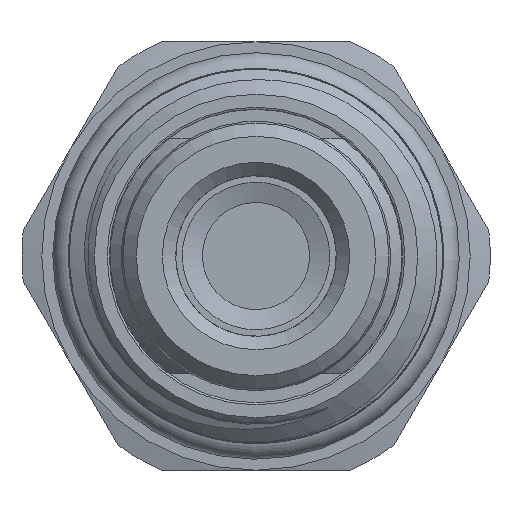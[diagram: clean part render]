
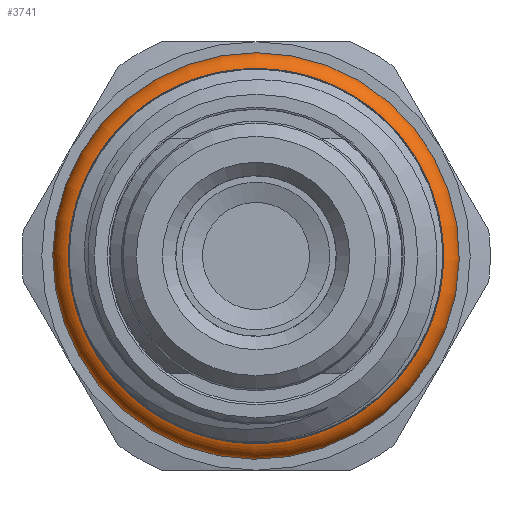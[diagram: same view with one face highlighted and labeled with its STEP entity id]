
A CAD part, left-side view. The second image highlights one B-rep face of the part: STEP entity #3741.
In plain terms, the highlighted toroidal (fillet/blend) face has major radius 10.82 mm and minor radius 1.232 mm.
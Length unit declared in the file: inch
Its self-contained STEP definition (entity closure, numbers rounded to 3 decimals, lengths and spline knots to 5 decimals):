
#47=TOROIDAL_SURFACE('',#4029,0.426,0.0485);
#481=FACE_OUTER_BOUND('',#682,.T.);
#682=EDGE_LOOP('',(#2963,#2964,#2965,#2966,#2967,#2968,#2969,#2970));
#843=CIRCLE('',#4009,0.38625);
#844=CIRCLE('',#4010,0.38625);
#853=CIRCLE('',#4027,0.38625);
#854=CIRCLE('',#4028,0.38625);
#855=CIRCLE('',#4030,0.0485);
#856=CIRCLE('',#4031,0.0485);
#1621=VERTEX_POINT('',#7643);
#1624=VERTEX_POINT('',#7651);
#1625=VERTEX_POINT('',#7653);
#1638=VERTEX_POINT('',#10046);
#1639=VERTEX_POINT('',#10047);
#2120=EDGE_CURVE('',#1624,#1625,#843,.T.);
#2121=EDGE_CURVE('',#1625,#1624,#844,.T.);
#2144=EDGE_CURVE('',#1638,#1639,#853,.T.);
#2146=EDGE_CURVE('',#1639,#1638,#854,.T.);
#2147=EDGE_CURVE('',#1638,#1621,#855,.T.);
#2148=EDGE_CURVE('',#1621,#1625,#856,.T.);
#2963=ORIENTED_EDGE('',*,*,#2144,.F.);
#2964=ORIENTED_EDGE('',*,*,#2147,.T.);
#2965=ORIENTED_EDGE('',*,*,#2148,.T.);
#2966=ORIENTED_EDGE('',*,*,#2120,.F.);
#2967=ORIENTED_EDGE('',*,*,#2121,.F.);
#2968=ORIENTED_EDGE('',*,*,#2148,.F.);
#2969=ORIENTED_EDGE('',*,*,#2147,.F.);
#2970=ORIENTED_EDGE('',*,*,#2146,.F.);
#3741=ADVANCED_FACE('',(#481),#47,.T.);
#4009=AXIS2_PLACEMENT_3D('',#7654,#4549,#4550);
#4010=AXIS2_PLACEMENT_3D('',#7655,#4551,#4552);
#4027=AXIS2_PLACEMENT_3D('',#10048,#4588,#4589);
#4028=AXIS2_PLACEMENT_3D('',#10050,#4591,#4592);
#4029=AXIS2_PLACEMENT_3D('',#10051,#4593,#4594);
#4030=AXIS2_PLACEMENT_3D('',#10052,#4595,#4596);
#4031=AXIS2_PLACEMENT_3D('',#10053,#4597,#4598);
#4549=DIRECTION('center_axis',(-1.,0.,0.));
#4550=DIRECTION('ref_axis',(0.,0.5,-0.866));
#4551=DIRECTION('center_axis',(-1.,0.,0.));
#4552=DIRECTION('ref_axis',(0.,0.5,-0.866));
#4588=DIRECTION('center_axis',(1.,0.,0.));
#4589=DIRECTION('ref_axis',(0.,0.5,-0.866));
#4591=DIRECTION('center_axis',(1.,0.,0.));
#4592=DIRECTION('ref_axis',(0.,0.5,-0.866));
#4593=DIRECTION('center_axis',(1.,0.,0.));
#4594=DIRECTION('ref_axis',(0.,0.52,-0.854));
#4595=DIRECTION('center_axis',(0.,-0.854,
-0.52));
#4596=DIRECTION('ref_axis',(0.,-0.52,0.854));
#4597=DIRECTION('center_axis',(0.,-0.854,
-0.52));
#4598=DIRECTION('ref_axis',(0.,-0.52,0.854));
#7643=CARTESIAN_POINT('',(0.,-0.22151,0.36388));
#7651=CARTESIAN_POINT('',(-0.07629,-0.19313,0.3345));
#7653=CARTESIAN_POINT('',(-0.07629,-0.20084,0.32993));
#7654=CARTESIAN_POINT('Origin',(-0.07629,0.,
0.));
#7655=CARTESIAN_POINT('Origin',(-0.07629,0.,
0.));
#10046=CARTESIAN_POINT('',(-0.02071,-0.20084,0.32993));
#10047=CARTESIAN_POINT('',(-0.02071,-0.19313,0.3345));
#10048=CARTESIAN_POINT('Origin',(-0.02071,0.,
0.));
#10050=CARTESIAN_POINT('Origin',(-0.02071,0.,
0.));
#10051=CARTESIAN_POINT('Origin',(-0.0485,0.,
0.));
#10052=CARTESIAN_POINT('Origin',(-0.0485,-0.22151,
0.36388));
#10053=CARTESIAN_POINT('Origin',(-0.0485,-0.22151,
0.36388));
